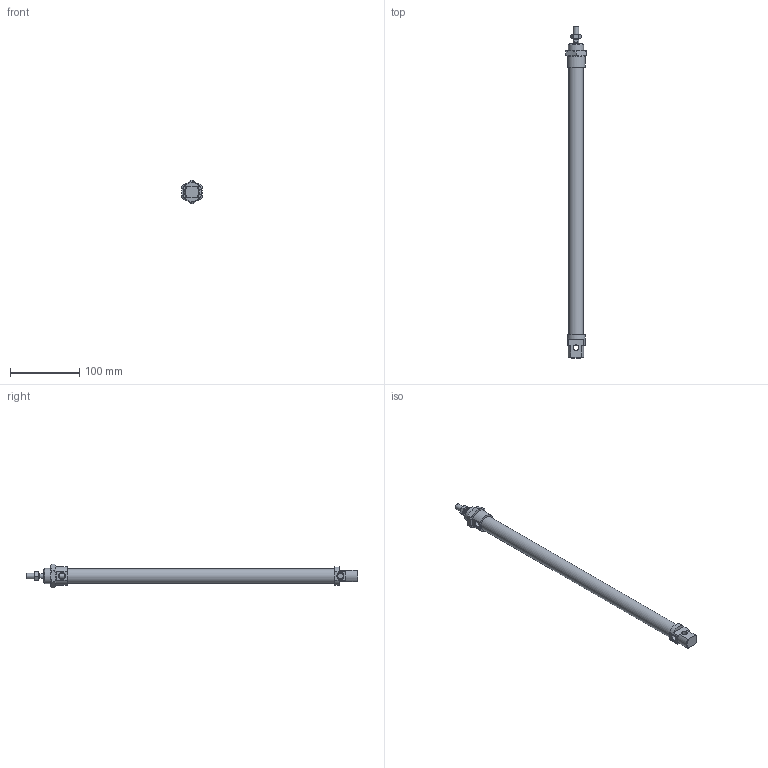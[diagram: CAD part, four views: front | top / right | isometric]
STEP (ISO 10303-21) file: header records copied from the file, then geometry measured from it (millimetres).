
FILE_DESCRIPTION((''),'2;1');
FILE_NAME('I:\Area Tecnica\Disegni\VARIE-3D\Componenti\1280\1280_##_####_#\1280_20_0350.iam.stp','2009-06-04T09:44:41',(''),(''),'Autodesk Inventor 2010','Autodesk Inventor 2010','');
FILE_SCHEMA(('AUTOMOTIVE_DESIGN { 1 0 10303 214 1 1 1 1 }'));
Length unit declared in the file: millimetre
Products named in the file (5): 1280_20_0350; C1280_20_350; S1280_20_350; 1200_20_05; 1200_20_06
Assembly tree (4 placements, depth 2):
  1280_20_0350
    C1280_20_350
    S1280_20_350
    1200_20_05
    1200_20_06
Bounding box: 30 x 480 x 34.64 mm (x, y, z)
Volume: 167903.3 mm3; surface area: 55434.9 mm2
Topology: 4 solids, 4 shells, 92 faces, 204 edges, 125 vertices
Faces by surface type: plane 41, cone 28, bspline 12, cylinder 11
Full cylindrical faces by diameter (mm): 6.5 x1, 8 x4, 21.2 x1, 22 x1
Entity records: 2742 total; most frequent: CARTESIAN_POINT 697, DIRECTION 376, ORIENTED_EDGE 356, EDGE_CURVE 178, AXIS2_PLACEMENT_3D 163, EDGE_LOOP 124, VERTEX_POINT 118, STYLED_ITEM 96
